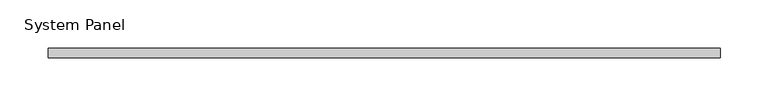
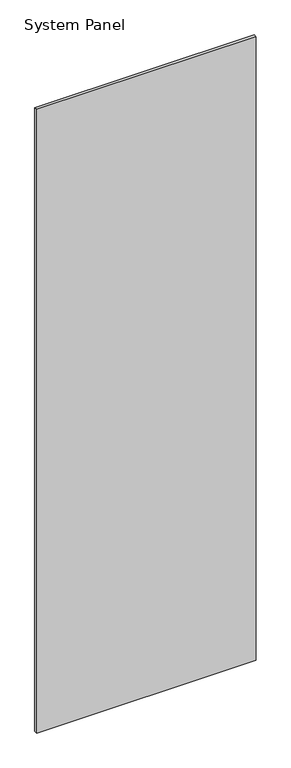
"""IFC4 building model written with IfcOpenShell, lengths in millimetres: plate geometry, System Panel : стекло_смещение_0."""

from ifc_helpers import new_model, si_unit, origin, origin_with_axes, place, context, project, spatial, polyline, outline, extrude, source, transform, mapped, element, save


def system_panel_3e5f6c21(model_context):
    return source(origin(), model_context, "Body", "SweptSolid", [
        extrude(outline(polyline([(350.0, -5.0), (-350.0, -5.0), (-350.0, 5.0), (350.0, 5.0), (350.0, -5.0)])), origin_with_axes(), (0.0, 0.0, 1.0), 2100.0),
    ])


if __name__ == "__main__":
    model = new_model("IFC4")
    model_context = context("Model", 3, world=origin())
    ifc_project = project(units=[si_unit("LENGTHUNIT", "METRE", prefix="MILLI")], contexts=[model_context])
    site = spatial("IfcSite", under=ifc_project)
    building = spatial("IfcBuilding", under=site)
    placement = place(None, origin())
    system_panel_shape = system_panel_3e5f6c21(model_context)
    element("IfcPlate", 1, ObjectType="System Panel : стекло_смещение_0", at=placement, inside=building, context=model_context, shape_type="MappedRepresentation", body=[
        mapped(system_panel_shape, transform((0.0, 0.0, 0.0), x_axis=(1.0, 0.0, 0.0), y_axis=(0.0, 1.0, 0.0), z_axis=(0.0, 0.0, 1.0))),
    ])
    save(model, "model.ifc")
